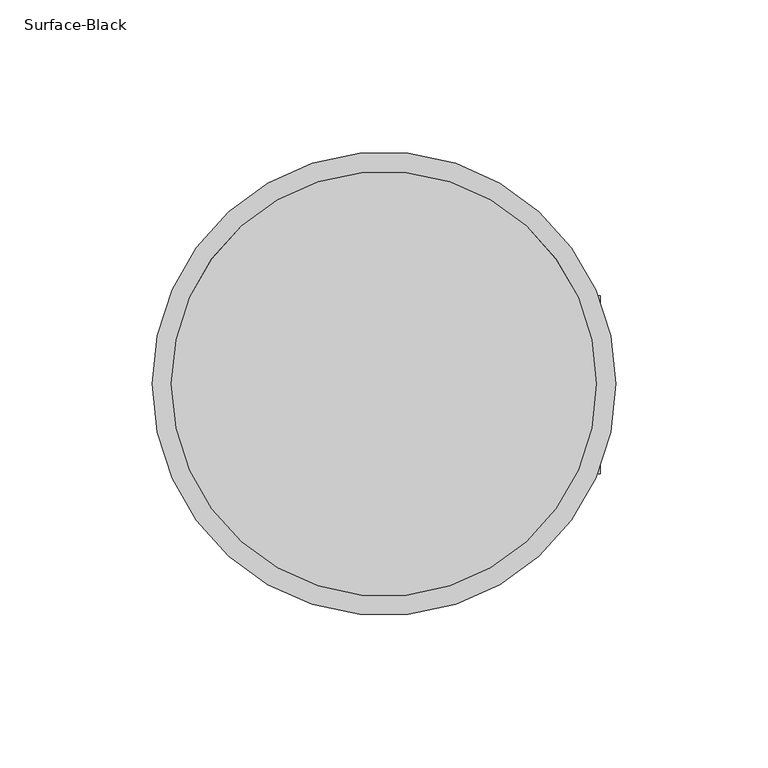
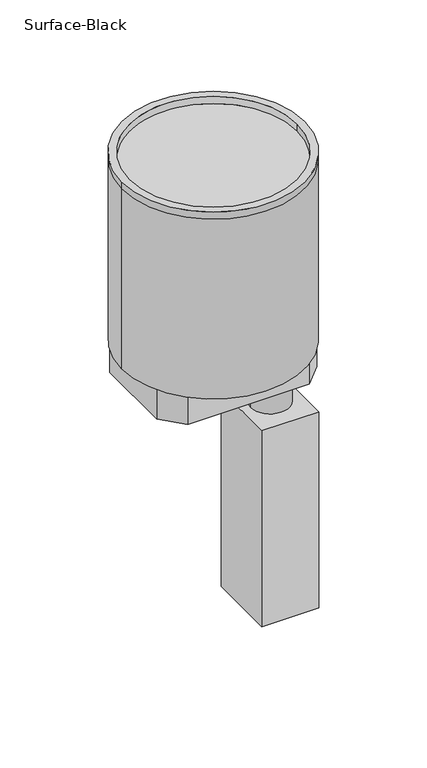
"""IFC4 building model written with IfcOpenShell, lengths in millimetres: proxy geometry, Poke_Thru_Device-Evolution_6AT_Series-Wiremold-Assembly : Surface-Black."""

from ifc_helpers import new_model, si_unit, point, frame, frame_2d, origin, origin_with_axes, place, context, project, spatial, polyline, circle_curve, trimmed, segment, composite_curve, outline, extrude, source, transform, mapped, element, save
from ifc_brep_helpers import plane_surface, cylinder_surface, revolved_surface, advanced_brep


def surface_black_75880dd1(model_context):
    return source(origin(), model_context, "Body", "SolidModel", [
        advanced_brep(
        [(69.85, 0.0, -6.35), (-69.85, 0.0, -6.35), (-76.2, 0.0, -165.1), (76.2, 0.0, -165.1), (76.2, 0.0, -6.35), (-76.2, 0.0, -6.35), (-76.2, 0.0, 0.0), (76.2, 0.0, 0.0), (-69.85, 0.0, 0.0), (69.85, 0.0, 0.0)],
        [
            (0, 1, circle_curve(frame((0.0, 0.0, -6.35), z_axis=(0.0, 0.0, 1.0), x_axis=(1.0, 0.0, 0.0)), 69.85)),
            (1, 0, circle_curve(frame((0.0, 0.0, -6.35), z_axis=(0.0, 0.0, 1.0), x_axis=(1.0, 0.0, 0.0)), 69.85)),
            (2, 3, circle_curve(frame((0.0, 0.0, -165.1), z_axis=(0.0, 0.0, -1.0), x_axis=(1.0, 0.0, 0.0)), 76.2)),
            (3, 2, circle_curve(frame((0.0, 0.0, -165.1), z_axis=(0.0, 0.0, -1.0), x_axis=(1.0, 0.0, 0.0)), 76.2)),
            (3, 4),
            (4, 5, circle_curve(frame((0.0, 0.0, -6.35), z_axis=(0.0, 0.0, -1.0), x_axis=(1.0, 0.0, 0.0)), 76.2)),
            (5, 2),
            (5, 4, circle_curve(frame((0.0, 0.0, -6.35), z_axis=(0.0, 0.0, -1.0), x_axis=(1.0, 0.0, 0.0)), 76.2)),
            (6, 7, circle_curve(origin_with_axes(), 76.2)),
            (7, 6, circle_curve(origin_with_axes(), 76.2)),
            (8, 9, circle_curve(frame((0.0, 0.0, 0.0), z_axis=(0.0, 0.0, -1.0), x_axis=(1.0, 0.0, 0.0)), 69.85)),
            (9, 8, circle_curve(frame((0.0, 0.0, 0.0), z_axis=(0.0, 0.0, -1.0), x_axis=(1.0, 0.0, 0.0)), 69.85)),
            (6, 5),
            (4, 7),
            (8, 1),
            (0, 9),
        ],
        [
            plane_surface(frame((76.2, 0.0, -6.35), z_axis=(0.0, 0.0, 1.0), x_axis=(0.0, 1.0, 0.0))),
            plane_surface(frame((76.2, 0.0, -165.1), z_axis=(0.0, 0.0, -1.0), x_axis=(0.0, -1.0, 0.0))),
            cylinder_surface(frame((0.0, 0.0, -165.1), z_axis=(0.0, 0.0, 1.0), x_axis=(1.0, 0.0, 0.0)), 76.2),
            plane_surface(frame((76.2, 0.0, 0.0), z_axis=(0.0, 0.0, 1.0), x_axis=(0.0, 1.0, 0.0))),
            cylinder_surface(frame((0.0, 0.0, -6.35), z_axis=(0.0, 0.0, 1.0), x_axis=(1.0, 0.0, 0.0)), 76.2),
            revolved_surface(polyline([(69.85, 0.0, -6.35), (69.85, 0.0, 0.0)]), (0.0, 0.0, 0.0), (0.0, 0.0, -1.0)),
        ],
        [
            (0, [[1, 2]]),
            (1, [[3, 4]]),
            (2, [[-4, 5, 6, 7]]),
            (2, [[-3, -7, 8, -5]]),
            (3, [[9, 10], [11, 12]]),
            (4, [[-9, 13, -6, 14]]),
            (4, [[-10, -14, -8, -13]]),
            (5, [[-11, 15, -1, 16]]),
            (5, [[-12, -16, -2, -15]]),
        ],
    ),
        extrude(outline(polyline([(50.8, 50.8), (66.675, 34.036), (66.675, -34.036), (50.8, -50.8), (-50.8, -50.8), (-66.675, -34.036), (-66.675, 34.036), (-50.8, 50.8), (50.8, 50.8)])), frame((0.0, 0.0, -192.1002), z_axis=(0.0, 0.0, 1.0), x_axis=(1.0, 0.0, 0.0)), (0.0, 0.0, 1.0), 27.0002),
        extrude(outline(composite_curve([segment(trimmed(circle_curve(frame_2d((47.244, -0.229668)), 11.1252), [point((36.1188, -0.229668))], [point((58.3692, -0.229668))], False, "CARTESIAN"), True, "CONTINUOUS"), segment(trimmed(circle_curve(frame_2d((47.244, -0.229668)), 11.1252), [point((58.3692, -0.229668))], [point((36.1188, -0.229668))], False, "CARTESIAN"), True, "CONTINUOUS")], self_intersect=False)), frame((0.0, 0.0, -217.5002), z_axis=(0.0, 0.0, 1.0), x_axis=(1.0, 0.0, 0.0)), (0.0, 0.0, 1.0), 25.4),
        extrude(outline(composite_curve([segment(trimmed(circle_curve(frame_2d((47.244, -0.229668)), 16.0528), [point((31.1912, -0.229668))], [point((63.2968, -0.229668))], False, "CARTESIAN"), True, "CONTINUOUS"), segment(trimmed(circle_curve(frame_2d((47.244, -0.229668)), 16.0528), [point((63.2968, -0.229668))], [point((31.1912, -0.229668))], False, "CARTESIAN"), True, "CONTINUOUS")], self_intersect=False)), frame((0.0, 0.0, -236.5502), z_axis=(0.0, 0.0, 1.0), x_axis=(1.0, 0.0, 0.0)), (0.0, 0.0, 1.0), 19.05),
        extrude(outline(polyline([(71.0438, 28.980332), (71.0438, -29.439668), (23.4442, -29.439668), (23.4442, 28.980332), (71.0438, 28.980332)])), frame((0.0, 0.0, -409.575), z_axis=(0.0, 0.0, 1.0), x_axis=(1.0, 0.0, 0.0)), (0.0, 0.0, 1.0), 173.0248),
    ])


if __name__ == "__main__":
    model = new_model("IFC4")
    model_context = context("Model", 3, world=origin())
    ifc_project = project(units=[si_unit("LENGTHUNIT", "METRE", prefix="MILLI")], contexts=[model_context])
    site = spatial("IfcSite", under=ifc_project)
    building = spatial("IfcBuilding", under=site)
    placement = place(None, origin())
    surface_black_shape = surface_black_75880dd1(model_context)
    element("IfcBuildingElementProxy", 1, Name="Poke_Thru_Device-Evolution_6AT_Series-Wiremold-Assembly : Surface-Black", ObjectType="Poke_Thru_Device-Evolution_6AT_Series-Wiremold-Assembly : Surface-Black", at=placement, inside=building, context=model_context, shape_type="MappedRepresentation", body=[
        mapped(surface_black_shape, transform((0.0, 0.0, 0.0), x_axis=(1.0, 0.0, 0.0), y_axis=(0.0, 1.0, 0.0), z_axis=(0.0, 0.0, 1.0))),
    ])
    save(model, "model.ifc")
